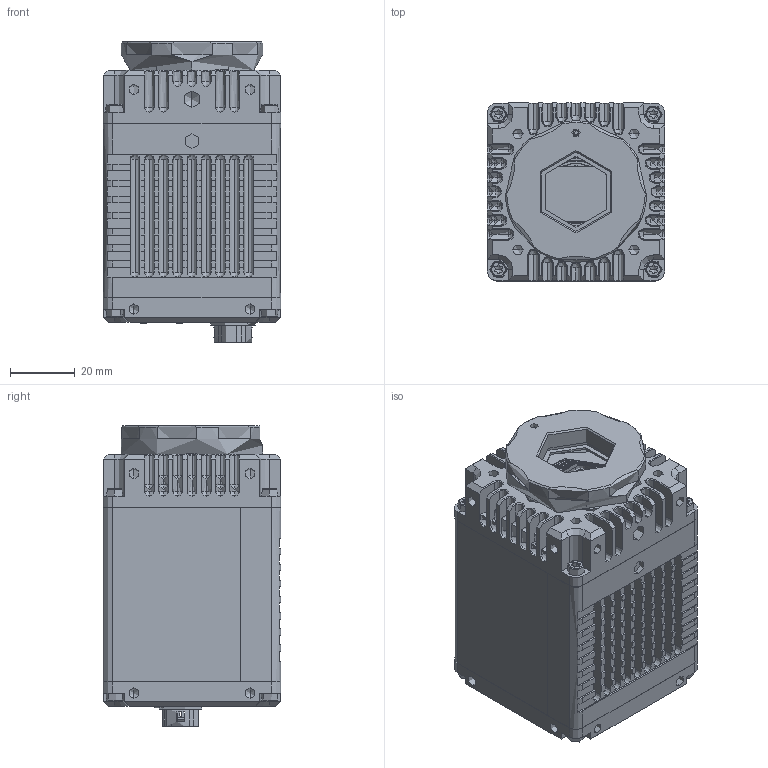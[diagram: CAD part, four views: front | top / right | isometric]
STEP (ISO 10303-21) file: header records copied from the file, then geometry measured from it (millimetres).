
FILE_DESCRIPTION (( 'STEP AP214' ), '1' );
FILE_NAME ('4068000_Goldeye G-032 SWIR TEC1 (C-Mount Chunghwa 640x512).STEP', '2023-07-24T14:16:46', ( '' ), ( '' ), 'SwSTEP 2.0', 'SolidWorks 2021', '' );
FILE_SCHEMA (( 'AUTOMOTIVE_DESIGN' ));
Length unit declared in the file: millimetre
Products named in the file (1): 4068000_Goldeye G-032 SWIR TEC1 (C-Mount Chunghwa 640x512)
Bounding box: 55.01 x 55 x 93.17 mm (x, y, z)
Topology: 0 solids, 52 shells, 3731 faces, 10008 edges, 6298 vertices
Faces by surface type: plane 1707, cylinder 1222, bspline 383, cone 259, sphere 98, torus 62
Full cylindrical faces by diameter (mm): 1.1 x2
Entity records: 168749 total; most frequent: CARTESIAN_POINT 35617, ORIENTED_EDGE 19612, DIRECTION 18043, EDGE_CURVE 9806, VERTEX_POINT 6288, VECTOR 6163, LINE 6163, AXIS2_PLACEMENT_3D 5940
